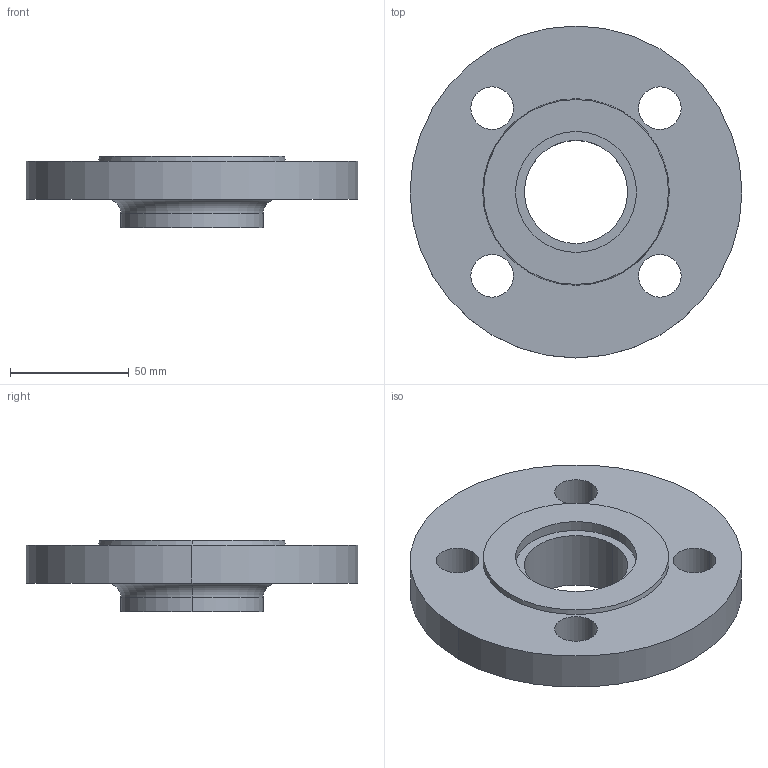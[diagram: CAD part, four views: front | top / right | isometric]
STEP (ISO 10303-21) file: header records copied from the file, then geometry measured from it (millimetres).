
FILE_DESCRIPTION (( 'STEP AP214' ), '1' );
FILE_NAME ('PN40 DN32 Type 12 - Type G Face.STEP', '2018-12-29T23:56:19', ( '' ), ( '' ), 'SwSTEP 2.0', 'SolidWorks 2019', '' );
FILE_SCHEMA (( 'AUTOMOTIVE_DESIGN' ));
Length unit declared in the file: millimetre
Products named in the file (1): PN40 DN32 Type 12 - Type G Face
Bounding box: 140 x 140 x 30 mm (x, y, z)
Volume: 228018.7 mm3; surface area: 42847.2 mm2
Topology: 1 solids, 1 shells, 25 faces, 58 edges, 38 vertices
Faces by surface type: cylinder 16, plane 5, torus 2, cone 2
Entity records: 790 total; most frequent: DIRECTION 150, CARTESIAN_POINT 122, ORIENTED_EDGE 116, AXIS2_PLACEMENT_3D 66, EDGE_CURVE 58, CIRCLE 40, VERTEX_POINT 38, EDGE_LOOP 38
